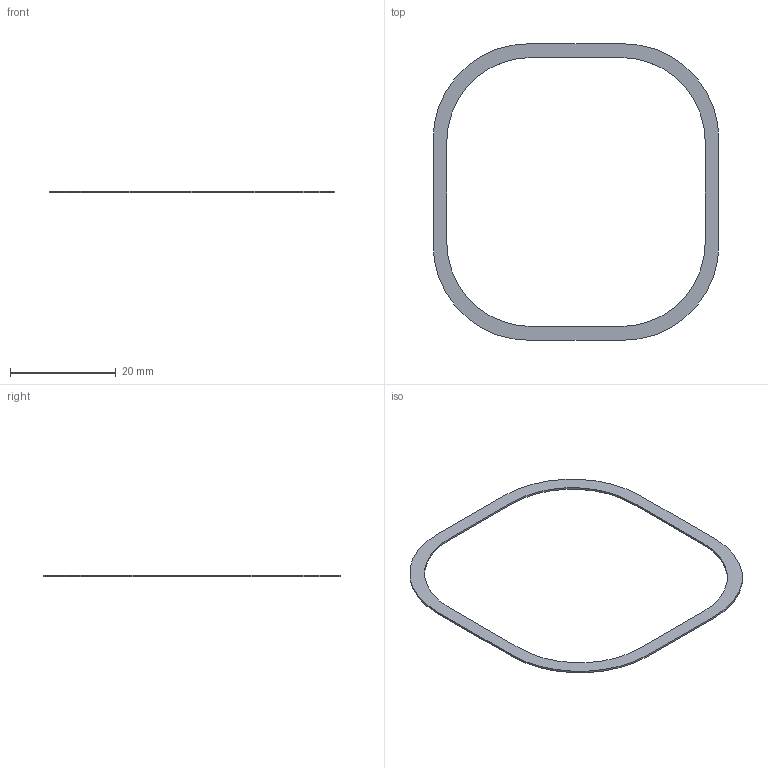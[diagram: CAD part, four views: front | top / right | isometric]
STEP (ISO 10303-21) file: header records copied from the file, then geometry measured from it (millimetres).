
FILE_DESCRIPTION(('Open CASCADE Model'),'2;1');
FILE_NAME('Open CASCADE Shape Model','2026-09-08T13:32:07',('Author'),( 'Open CASCADE'),'Open CASCADE STEP processor 7.7','Open CASCADE 7.7' ,'Unknown');
FILE_SCHEMA(('AUTOMOTIVE_DESIGN { 1 0 10303 214 1 1 1 1 }'));
Length unit declared in the file: millimetre
Products named in the file (1): Open CASCADE STEP translator 7.7 22
Bounding box: 54.2 x 56.2 x 0.35 mm (x, y, z)
Volume: 169.9 mm3; surface area: 1097.9 mm2
Topology: 1 solids, 1 shells, 18 faces, 48 edges, 32 vertices
Faces by surface type: plane 10, cylinder 8
Entity records: 1218 total; most frequent: CARTESIAN_POINT 219, DIRECTION 194, LINE 112, VECTOR 112, ORIENTED_EDGE 96, PCURVE 96, DEFINITIONAL_REPRESENTATION 96, EDGE_CURVE 48
